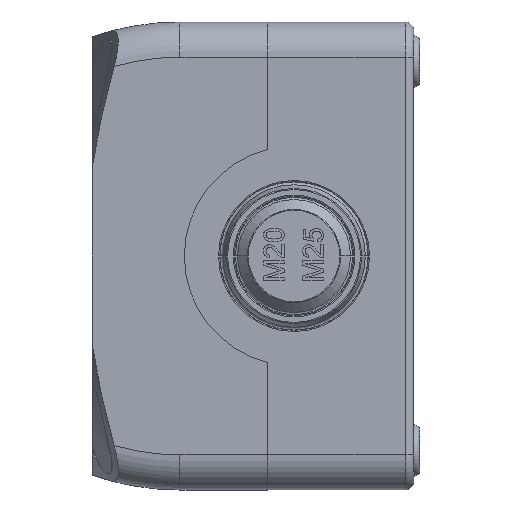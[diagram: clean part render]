
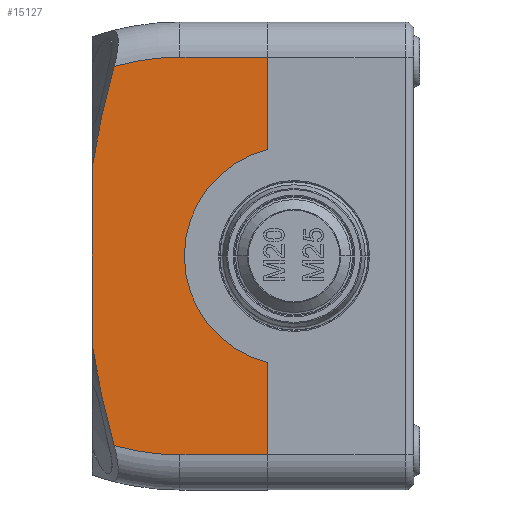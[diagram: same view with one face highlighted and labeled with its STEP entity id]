
A CAD part, left-side view. The second image highlights one B-rep face of the part: STEP entity #15127.
In plain terms, the highlighted planar face has unit normal (-1, 0, 0) as drawn and (0, 0, -1) by its records, which use the part's own axes.
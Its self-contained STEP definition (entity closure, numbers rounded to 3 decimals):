
#30 = EDGE_CURVE ( 'NONE', #10323, #17849, #2348, .T. ) ;
#50 = VERTEX_POINT ( 'NONE', #25916 ) ;
#178 = CARTESIAN_POINT ( 'NONE',  ( -18.056, 14.56, -76.5 ) ) ;
#663 = VERTEX_POINT ( 'NONE', #27571 ) ;
#1426 = EDGE_CURVE ( 'NONE', #37010, #22152, #14669, .T. ) ;
#1676 = PLANE ( 'NONE',  #25517 ) ;
#1942 = EDGE_CURVE ( 'NONE', #5160, #663, #20280, .T. ) ;
#2028 = CARTESIAN_POINT ( 'NONE',  ( 6.25, 0., -76.5 ) ) ;
#2203 = ORIENTED_EDGE ( 'NONE', *, *, #39922, .T. ) ;
#2303 = AXIS2_PLACEMENT_3D ( 'NONE', #4419, #29504, #8017 ) ;
#2348 = CIRCLE ( 'NONE', #2303, 18.75 ) ;
#2357 = EDGE_CURVE ( 'NONE', #37010, #50, #38750, .T. ) ;
#2398 = ORIENTED_EDGE ( 'NONE', *, *, #1942, .F. ) ;
#3794 = CARTESIAN_POINT ( 'NONE',  ( -26.709, 12.744, -76.5 ) ) ;
#4419 = CARTESIAN_POINT ( 'NONE',  ( 0., -19.5, -76.5 ) ) ;
#4933 = ORIENTED_EDGE ( 'NONE', *, *, #7201, .T. ) ;
#5160 = VERTEX_POINT ( 'NONE', #9401 ) ;
#5186 = VERTEX_POINT ( 'NONE', #38112 ) ;
#5195 = LINE ( 'NONE', #45023, #23146 ) ;
#5626 = DIRECTION ( 'NONE',  ( 1., 0., 0. ) ) ;
#5694 = DIRECTION ( 'NONE',  ( -1., 0., 0. ) ) ;
#7201 = EDGE_CURVE ( 'NONE', #22152, #21842, #25576, .T. ) ;
#7372 = CARTESIAN_POINT ( 'NONE',  ( -32.396, 11.249, -76.5 ) ) ;
#7850 = ORIENTED_EDGE ( 'NONE', *, *, #44609, .F. ) ;
#8017 = DIRECTION ( 'NONE',  ( 1., 0., 0. ) ) ;
#9401 = CARTESIAN_POINT ( 'NONE',  ( -32.396, 11.249, -76.5 ) ) ;
#10323 = VERTEX_POINT ( 'NONE', #41066 ) ;
#11701 = DIRECTION ( 'NONE',  ( 0., -1., 0. ) ) ;
#11978 = EDGE_CURVE ( 'NONE', #5186, #17849, #43954, .T. ) ;
#12654 = CARTESIAN_POINT ( 'NONE',  ( 6.25, 0., -76.5 ) ) ;
#13054 = CARTESIAN_POINT ( 'NONE',  ( 15.124, 15., -76.5 ) ) ;
#13465 = CARTESIAN_POINT ( 'NONE',  ( 34., -15., -76.5 ) ) ;
#14669 = B_SPLINE_CURVE_WITH_KNOTS ( 'NONE', 3,
 ( #13054, #34528, #38154, #16686, #41736, #20293 ),
 .UNSPECIFIED., .F., .F.,
 ( 4, 2, 4 ),
 ( 0.04, 0.049, 0.058 ),
 .UNSPECIFIED. ) ;
#15127 = ADVANCED_FACE ( 'NONE', ( #30901 ), #1676, .T. ) ;
#16288 = DIRECTION ( 'NONE',  ( 0., 0., -1. ) ) ;
#16686 = CARTESIAN_POINT ( 'NONE',  ( 26.709, 12.744, -76.5 ) ) ;
#17193 = LINE ( 'NONE', #20923, #26704 ) ;
#17849 = VERTEX_POINT ( 'NONE', #42359 ) ;
#17950 = CARTESIAN_POINT ( 'NONE',  ( -6.25, 0., -76.5 ) ) ;
#18299 = EDGE_LOOP ( 'NONE', ( #36926, #20936, #20407, #2398, #7850, #40693, #34272, #4933, #41720, #2203 ) ) ;
#19096 = DIRECTION ( 'NONE',  ( -1., 0., 0. ) ) ;
#20280 = CIRCLE ( 'NONE', #22744, 40.25 ) ;
#20293 = CARTESIAN_POINT ( 'NONE',  ( 32.396, 11.249, -76.5 ) ) ;
#20407 = ORIENTED_EDGE ( 'NONE', *, *, #45116, .F. ) ;
#20865 = VECTOR ( 'NONE', #11701, 1000. ) ;
#20923 = CARTESIAN_POINT ( 'NONE',  ( 34., -15., -76.5 ) ) ;
#20936 = ORIENTED_EDGE ( 'NONE', *, *, #11978, .F. ) ;
#21545 = DIRECTION ( 'NONE',  ( -1., 0., 0. ) ) ;
#21633 = VERTEX_POINT ( 'NONE', #13465 ) ;
#21842 = VERTEX_POINT ( 'NONE', #41499 ) ;
#22152 = VERTEX_POINT ( 'NONE', #36765 ) ;
#22446 = EDGE_CURVE ( 'NONE', #21842, #21633, #17193, .T. ) ;
#22744 = AXIS2_PLACEMENT_3D ( 'NONE', #2028, #27116, #5626 ) ;
#23146 = VECTOR ( 'NONE', #5694, 1000. ) ;
#23673 = CARTESIAN_POINT ( 'NONE',  ( 0., -15., -76.5 ) ) ;
#24054 = AXIS2_PLACEMENT_3D ( 'NONE', #17950, #43006, #21545 ) ;
#25272 = CARTESIAN_POINT ( 'NONE',  ( -20.957, 14.01, -76.5 ) ) ;
#25517 = AXIS2_PLACEMENT_3D ( 'NONE', #12654, #16288, #41336 ) ;
#25576 = CIRCLE ( 'NONE', #24054, 40.25 ) ;
#25916 = CARTESIAN_POINT ( 'NONE',  ( -15.124, 15., -76.5 ) ) ;
#26704 = VECTOR ( 'NONE', #45980, 1000. ) ;
#27116 = DIRECTION ( 'NONE',  ( 0., 0., 1. ) ) ;
#27445 = DIRECTION ( 'NONE',  ( 1., 0., 0. ) ) ;
#27571 = CARTESIAN_POINT ( 'NONE',  ( -34., 0., -76.5 ) ) ;
#27697 = CARTESIAN_POINT ( 'NONE',  ( 15.124, 15., -76.5 ) ) ;
#28088 = VECTOR ( 'NONE', #19096, 1000. ) ;
#28865 = CARTESIAN_POINT ( 'NONE',  ( -29.561, 12.027, -76.5 ) ) ;
#29504 = DIRECTION ( 'NONE',  ( 0., 0., 1. ) ) ;
#30901 = FACE_OUTER_BOUND ( 'NONE', #18299, .T. ) ;
#34272 = ORIENTED_EDGE ( 'NONE', *, *, #1426, .T. ) ;
#34453 = VECTOR ( 'NONE', #27445, 1000. ) ;
#34528 = CARTESIAN_POINT ( 'NONE',  ( 18.056, 14.56, -76.5 ) ) ;
#36765 = CARTESIAN_POINT ( 'NONE',  ( 32.396, 11.249, -76.5 ) ) ;
#36926 = ORIENTED_EDGE ( 'NONE', *, *, #30, .T. ) ;
#36939 = CARTESIAN_POINT ( 'NONE',  ( -34., -15., -76.5 ) ) ;
#36954 = CARTESIAN_POINT ( 'NONE',  ( 0., 15., -76.5 ) ) ;
#37010 = VERTEX_POINT ( 'NONE', #27697 ) ;
#38112 = CARTESIAN_POINT ( 'NONE',  ( -34., -15., -76.5 ) ) ;
#38154 = CARTESIAN_POINT ( 'NONE',  ( 20.957, 14.01, -76.5 ) ) ;
#38750 = LINE ( 'NONE', #36954, #28088 ) ;
#38804 = LINE ( 'NONE', #36939, #20865 ) ;
#39524 = B_SPLINE_CURVE_WITH_KNOTS ( 'NONE', 3,
 ( #43116, #178, #25272, #3794, #28865, #7372 ),
 .UNSPECIFIED., .F., .F.,
 ( 4, 2, 4 ),
 ( 0.04, 0.049, 0.058 ),
 .UNSPECIFIED. ) ;
#39922 = EDGE_CURVE ( 'NONE', #21633, #10323, #5195, .T. ) ;
#40693 = ORIENTED_EDGE ( 'NONE', *, *, #2357, .F. ) ;
#41066 = CARTESIAN_POINT ( 'NONE',  ( 18.202, -15., -76.5 ) ) ;
#41336 = DIRECTION ( 'NONE',  ( 1., 0., 0. ) ) ;
#41499 = CARTESIAN_POINT ( 'NONE',  ( 34., 0., -76.5 ) ) ;
#41720 = ORIENTED_EDGE ( 'NONE', *, *, #22446, .T. ) ;
#41736 = CARTESIAN_POINT ( 'NONE',  ( 29.561, 12.027, -76.5 ) ) ;
#42359 = CARTESIAN_POINT ( 'NONE',  ( -18.202, -15., -76.5 ) ) ;
#43006 = DIRECTION ( 'NONE',  ( 0., 0., -1. ) ) ;
#43116 = CARTESIAN_POINT ( 'NONE',  ( -15.124, 15., -76.5 ) ) ;
#43954 = LINE ( 'NONE', #23673, #34453 ) ;
#44609 = EDGE_CURVE ( 'NONE', #50, #5160, #39524, .T. ) ;
#45023 = CARTESIAN_POINT ( 'NONE',  ( 0., -15., -76.5 ) ) ;
#45116 = EDGE_CURVE ( 'NONE', #663, #5186, #38804, .T. ) ;
#45980 = DIRECTION ( 'NONE',  ( 0., -1., 0. ) ) ;
